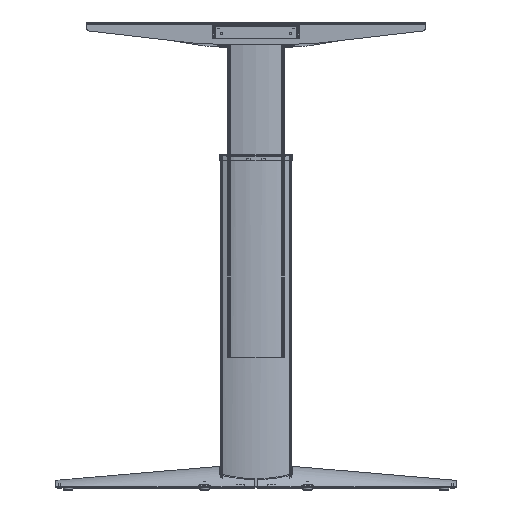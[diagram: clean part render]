
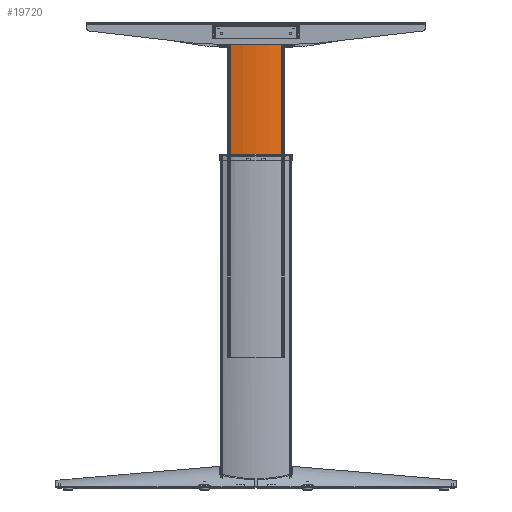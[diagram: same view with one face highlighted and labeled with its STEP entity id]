
A CAD part, left-side view. The second image highlights one B-rep face of the part: STEP entity #19720.
In plain terms, the highlighted cylindrical face has radius 177 mm (diameter 354 mm), a partial arc.
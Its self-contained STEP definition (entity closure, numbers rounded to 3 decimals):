
#1448 = EDGE_CURVE ( 'NONE', #6720, #50917, #9966, .T. ) ;
#1953 = EDGE_CURVE ( 'NONE', #53509, #6720, #28865, .T. ) ;
#2156 = DIRECTION ( 'NONE',  ( -1., 0., 0. ) ) ;
#6720 = VERTEX_POINT ( 'NONE', #56084 ) ;
#8525 = AXIS2_PLACEMENT_3D ( 'NONE', #36494, #16602, #47035 ) ;
#8811 = CARTESIAN_POINT ( 'NONE',  ( 50.133, -42.091, 645. ) ) ;
#9966 = CIRCLE ( 'NONE', #37844, 177. ) ;
#13456 = CARTESIAN_POINT ( 'NONE',  ( -50.133, -42.091, 645. ) ) ;
#14328 = ORIENTED_EDGE ( 'NONE', *, *, #1448, .F. ) ;
#16602 = DIRECTION ( 'NONE',  ( 0., 0., -1. ) ) ;
#17783 = VECTOR ( 'NONE', #24029, 1000. ) ;
#19720 = ADVANCED_FACE ( 'NONE', ( #32353 ), #61462, .T. ) ;
#19759 = DIRECTION ( 'NONE',  ( 0., 0., -1. ) ) ;
#24029 = DIRECTION ( 'NONE',  ( 0., 0., -1. ) ) ;
#24440 = ORIENTED_EDGE ( 'NONE', *, *, #1953, .F. ) ;
#25125 = CIRCLE ( 'NONE', #8525, 177. ) ;
#25878 = CARTESIAN_POINT ( 'NONE',  ( -50.133, -42.091, 0. ) ) ;
#27565 = VECTOR ( 'NONE', #62081, 1000. ) ;
#28100 = CARTESIAN_POINT ( 'NONE',  ( 50.133, -42.091, 645. ) ) ;
#28865 = LINE ( 'NONE', #8811, #17783 ) ;
#30074 = CARTESIAN_POINT ( 'NONE',  ( 0., 127.661, 0. ) ) ;
#30117 = EDGE_CURVE ( 'NONE', #62848, #50917, #60664, .T. ) ;
#32353 = FACE_OUTER_BOUND ( 'NONE', #54320, .T. ) ;
#33409 = ORIENTED_EDGE ( 'NONE', *, *, #30117, .T. ) ;
#35375 = AXIS2_PLACEMENT_3D ( 'NONE', #55254, #19759, #2156 ) ;
#36494 = CARTESIAN_POINT ( 'NONE',  ( 0., 127.661, 645. ) ) ;
#37844 = AXIS2_PLACEMENT_3D ( 'NONE', #30074, #51255, #40471 ) ;
#40471 = DIRECTION ( 'NONE',  ( -1., 0., 0. ) ) ;
#47035 = DIRECTION ( 'NONE',  ( -1., 0., 0. ) ) ;
#50917 = VERTEX_POINT ( 'NONE', #25878 ) ;
#51255 = DIRECTION ( 'NONE',  ( 0., 0., -1. ) ) ;
#53024 = ORIENTED_EDGE ( 'NONE', *, *, #53880, .T. ) ;
#53509 = VERTEX_POINT ( 'NONE', #28100 ) ;
#53880 = EDGE_CURVE ( 'NONE', #53509, #62848, #25125, .T. ) ;
#54320 = EDGE_LOOP ( 'NONE', ( #14328, #24440, #53024, #33409 ) ) ;
#55254 = CARTESIAN_POINT ( 'NONE',  ( 0., 127.661, 645. ) ) ;
#56084 = CARTESIAN_POINT ( 'NONE',  ( 50.133, -42.091, 0. ) ) ;
#60664 = LINE ( 'NONE', #62308, #27565 ) ;
#61462 = CYLINDRICAL_SURFACE ( 'NONE', #35375, 177. ) ;
#62081 = DIRECTION ( 'NONE',  ( 0., 0., -1. ) ) ;
#62308 = CARTESIAN_POINT ( 'NONE',  ( -50.133, -42.091, 645. ) ) ;
#62848 = VERTEX_POINT ( 'NONE', #13456 ) ;
